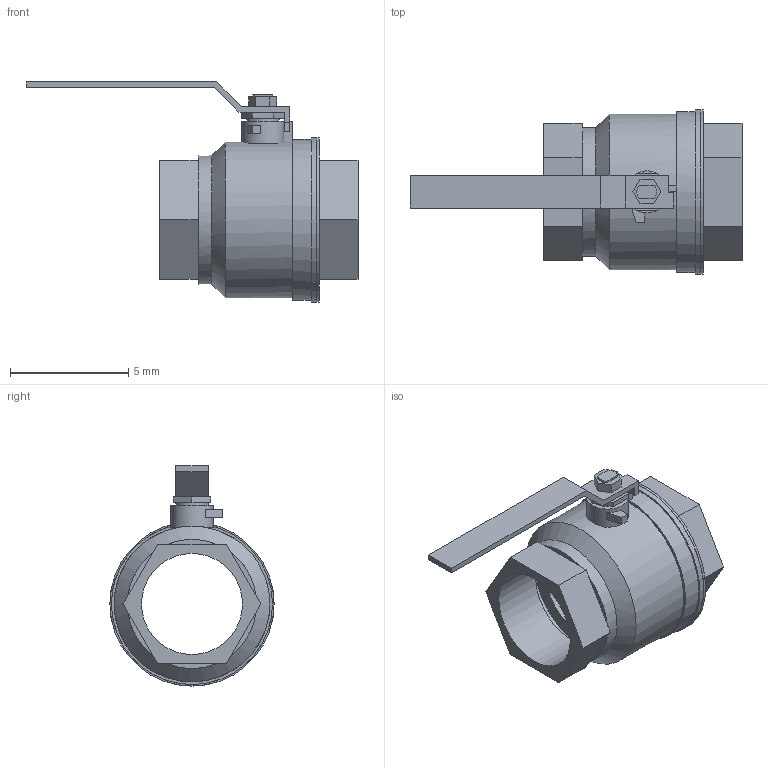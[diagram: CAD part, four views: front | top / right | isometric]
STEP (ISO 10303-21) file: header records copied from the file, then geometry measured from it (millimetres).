
FILE_DESCRIPTION(('Open CASCADE Model'),'2;1');
FILE_NAME('Open CASCADE Shape Model','2021-08-19T11:09:41',('Author'),( 'Open CASCADE'),'Open CASCADE STEP processor 7.3','Open CASCADE 7.3' ,'Unknown');
FILE_SCHEMA(('AUTOMOTIVE_DESIGN { 1 0 10303 214 1 1 1 1 }'));
Length unit declared in the file: millimetre
Products named in the file (3): Open CASCADE STEP translator 7.3 1; Open CASCADE STEP translator 7.3 1.1; Open CASCADE STEP translator 7.3 1.2
Assembly tree (2 placements, depth 2):
  Open CASCADE STEP translator 7.3 1
    Open CASCADE STEP translator 7.3 1.1
    Open CASCADE STEP translator 7.3 1.2
Bounding box: 14.06 x 6.96 x 9.33 mm (x, y, z)
Volume: 122.7 mm3; surface area: 386.3 mm2
Topology: 2 solids, 2 shells, 94 faces, 222 edges, 142 vertices
Faces by surface type: plane 80, cylinder 13, cone 1
Full cylindrical faces by diameter (mm): 1.085 x1, 1.38 x1, 1.78 x1, 4.28 x2, 5.465 x2, 6.6 x1, 6.82 x1, 6.95 x1, 6.96 x1
Entity records: 5865 total; most frequent: CARTESIAN_POINT 1277, DIRECTION 861, LINE 551, VECTOR 551, ORIENTED_EDGE 444, PCURVE 444, DEFINITIONAL_REPRESENTATION 444, EDGE_CURVE 222
